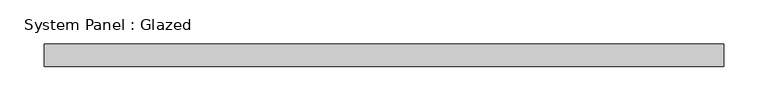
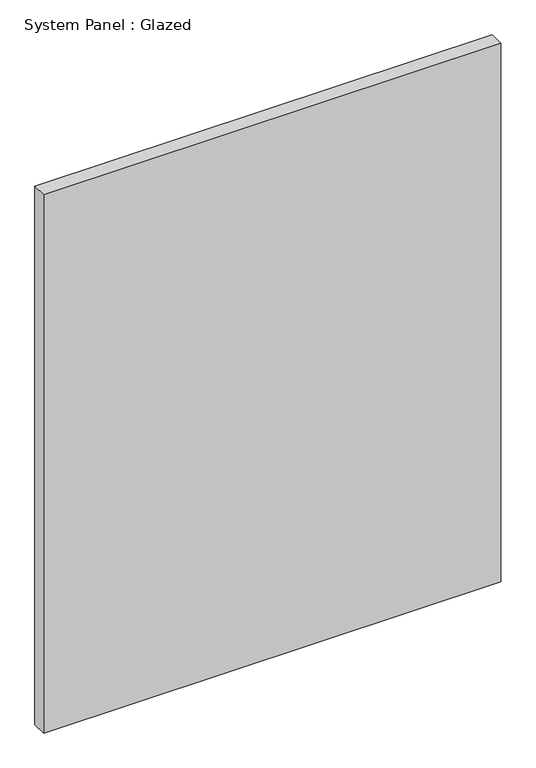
"""IFC4 building model written with IfcOpenShell, lengths in millimetres: plate geometry, System Panel : Glazed."""

from ifc_helpers import new_model, si_unit, origin, origin_with_axes, place, context, project, spatial, polyline, outline, extrude, source, transform, mapped, element, save


def system_panel_glazed_2e86a5ac(model_context):
    return source(origin(), model_context, "Body", "SweptSolid", [
        extrude(outline(polyline([(381.7538216, 24.5), (-381.7538216, 24.5), (-381.7538216, 49.5), (381.7538216, 49.5), (381.7538216, 24.5)])), origin_with_axes(), (0.0, 0.0, 1.0), 950.0),
    ])


if __name__ == "__main__":
    model = new_model("IFC4")
    model_context = context("Model", 3, world=origin())
    ifc_project = project(units=[si_unit("LENGTHUNIT", "METRE", prefix="MILLI")], contexts=[model_context])
    site = spatial("IfcSite", under=ifc_project)
    building = spatial("IfcBuilding", under=site)
    placement = place(None, origin())
    system_panel_glazed_shape = system_panel_glazed_2e86a5ac(model_context)
    element("IfcPlate", 1, ObjectType="System Panel : Glazed", at=placement, inside=building, context=model_context, shape_type="MappedRepresentation", body=[
        mapped(system_panel_glazed_shape, transform((0.0, 0.0, 0.0), x_axis=(1.0, 0.0, 0.0), y_axis=(0.0, 1.0, 0.0), z_axis=(0.0, 0.0, 1.0))),
    ])
    save(model, "model.ifc")
